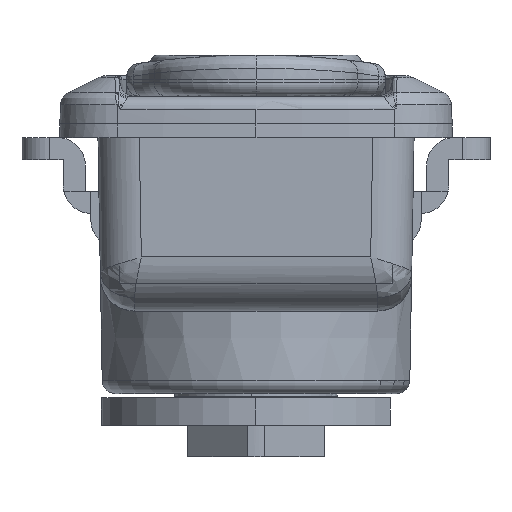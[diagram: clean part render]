
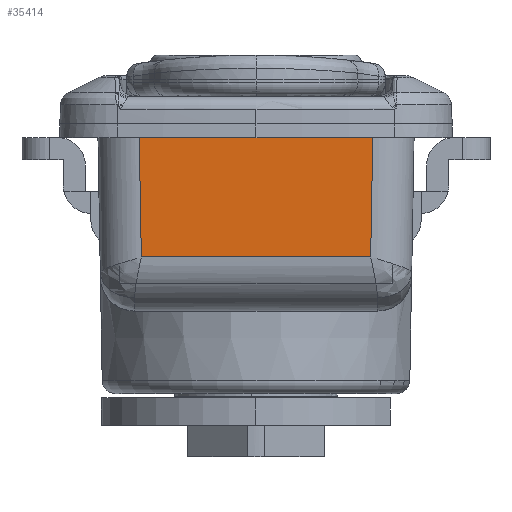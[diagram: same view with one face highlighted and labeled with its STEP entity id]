
A CAD part, left-side view. The second image highlights one B-rep face of the part: STEP entity #35414.
In plain terms, the highlighted planar face has unit normal (-1, 0, -0.018).
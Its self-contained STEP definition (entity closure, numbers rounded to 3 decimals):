
#8854 = CARTESIAN_POINT ( 'NONE',  ( -49.331, -8.332, 12.83 ) ) ;
#18086 = VERTEX_POINT ( 'NONE', #42834 ) ;
#24050 = CARTESIAN_POINT ( 'NONE',  ( -49.331, 8.332, 12.83 ) ) ;
#24145 = CARTESIAN_POINT ( 'NONE',  ( -49.519, 5.353, 23.6 ) ) ;
#24410 = AXIS2_PLACEMENT_3D ( 'NONE', #29541, #29542, #29543 ) ;
#24736 = VECTOR ( 'NONE', #35367, 1000. ) ;
#24739 = VECTOR ( 'NONE', #35374, 1000. ) ;
#24835 = VECTOR ( 'NONE', #40005, 1000. ) ;
#24840 = VECTOR ( 'NONE', #40027, 1000. ) ;
#24845 = VECTOR ( 'NONE', #40047, 1000. ) ;
#24849 = VECTOR ( 'NONE', #40055, 1000. ) ;
#24851 = VECTOR ( 'NONE', #40059, 1000. ) ;
#24854 = VECTOR ( 'NONE', #40066, 1000. ) ;
#27136 = VERTEX_POINT ( 'NONE', #24050 ) ;
#27231 = VERTEX_POINT ( 'NONE', #24145 ) ;
#28996 = VERTEX_POINT ( 'NONE', #36392 ) ;
#28998 = VERTEX_POINT ( 'NONE', #36393 ) ;
#29000 = VERTEX_POINT ( 'NONE', #36394 ) ;
#29004 = VERTEX_POINT ( 'NONE', #36396 ) ;
#29161 = EDGE_LOOP ( 'NONE', ( #37042, #37043, #37045, #37046, #37048, #37049, #37051, #37053 ) ) ;
#29516 = PLANE ( 'NONE',  #24410 ) ;
#29531 = FACE_OUTER_BOUND ( 'NONE', #29161, .T. ) ;
#29541 = CARTESIAN_POINT ( 'NONE',  ( -49.5, 0., 22.5 ) ) ;
#29542 = DIRECTION ( 'NONE',  ( 1., 0., 0.017 ) ) ;
#29543 = DIRECTION ( 'NONE',  ( 0.017, 0., -1. ) ) ;
#35268 = LINE ( 'NONE', #35366, #24736 ) ;
#35366 = CARTESIAN_POINT ( 'NONE',  ( -49.331, 0., 12.83 ) ) ;
#35367 = DIRECTION ( 'NONE',  ( 0., 1., 0. ) ) ;
#35369 = LINE ( 'NONE', #35373, #24739 ) ;
#35373 = CARTESIAN_POINT ( 'NONE',  ( -49.519, 0., 23.6 ) ) ;
#35374 = DIRECTION ( 'NONE',  ( 0., -1., 0. ) ) ;
#35414 = ADVANCED_FACE ( 'NONE', ( #29531 ), #29516, .F. ) ;
#35706 = EDGE_CURVE ( 'NONE', #46050, #27136, #35268, .T. ) ;
#35708 = EDGE_CURVE ( 'NONE', #27231, #18086, #35369, .T. ) ;
#35849 = EDGE_CURVE ( 'NONE', #27136, #28998, #40001, .T. ) ;
#35856 = EDGE_CURVE ( 'NONE', #28996, #27231, #40025, .T. ) ;
#35863 = EDGE_CURVE ( 'NONE', #18086, #29000, #40042, .T. ) ;
#35868 = EDGE_CURVE ( 'NONE', #29000, #29004, #40052, .T. ) ;
#35870 = EDGE_CURVE ( 'NONE', #28998, #28996, #40057, .T. ) ;
#35873 = EDGE_CURVE ( 'NONE', #29004, #46050, #40061, .T. ) ;
#36392 = CARTESIAN_POINT ( 'NONE',  ( -49.5, 5.392, 22.5 ) ) ;
#36393 = CARTESIAN_POINT ( 'NONE',  ( -49.5, 8.5, 22.5 ) ) ;
#36394 = CARTESIAN_POINT ( 'NONE',  ( -49.5, -5.392, 22.5 ) ) ;
#36396 = CARTESIAN_POINT ( 'NONE',  ( -49.5, -8.5, 22.5 ) ) ;
#37042 = ORIENTED_EDGE ( 'NONE', *, *, #35868, .F. ) ;
#37043 = ORIENTED_EDGE ( 'NONE', *, *, #35863, .F. ) ;
#37045 = ORIENTED_EDGE ( 'NONE', *, *, #35708, .F. ) ;
#37046 = ORIENTED_EDGE ( 'NONE', *, *, #35856, .F. ) ;
#37048 = ORIENTED_EDGE ( 'NONE', *, *, #35870, .F. ) ;
#37049 = ORIENTED_EDGE ( 'NONE', *, *, #35849, .F. ) ;
#37051 = ORIENTED_EDGE ( 'NONE', *, *, #35706, .F. ) ;
#37053 = ORIENTED_EDGE ( 'NONE', *, *, #35873, .F. ) ;
#40001 = LINE ( 'NONE', #40004, #24835 ) ;
#40004 = CARTESIAN_POINT ( 'NONE',  ( -49.331, 8.332, 12.83 ) ) ;
#40005 = DIRECTION ( 'NONE',  ( -0.017, 0.017, 1. ) ) ;
#40025 = LINE ( 'NONE', #40026, #24840 ) ;
#40026 = CARTESIAN_POINT ( 'NONE',  ( -49.5, 5.392, 22.5 ) ) ;
#40027 = DIRECTION ( 'NONE',  ( -0.017, -0.035, 0.999 ) ) ;
#40042 = LINE ( 'NONE', #40045, #24845 ) ;
#40045 = CARTESIAN_POINT ( 'NONE',  ( -49.519, -5.353, 23.6 ) ) ;
#40047 = DIRECTION ( 'NONE',  ( 0.017, -0.035, -0.999 ) ) ;
#40052 = LINE ( 'NONE', #40054, #24849 ) ;
#40054 = CARTESIAN_POINT ( 'NONE',  ( -49.5, 0., 22.5 ) ) ;
#40055 = DIRECTION ( 'NONE',  ( 0., -1., 0. ) ) ;
#40057 = LINE ( 'NONE', #40058, #24851 ) ;
#40058 = CARTESIAN_POINT ( 'NONE',  ( -49.5, 0., 22.5 ) ) ;
#40059 = DIRECTION ( 'NONE',  ( 0., -1., 0. ) ) ;
#40061 = LINE ( 'NONE', #40064, #24854 ) ;
#40064 = CARTESIAN_POINT ( 'NONE',  ( -49.363, -8.363, 14.647 ) ) ;
#40066 = DIRECTION ( 'NONE',  ( 0.017, 0.017, -1. ) ) ;
#42834 = CARTESIAN_POINT ( 'NONE',  ( -49.519, -5.353, 23.6 ) ) ;
#46050 = VERTEX_POINT ( 'NONE', #8854 ) ;
